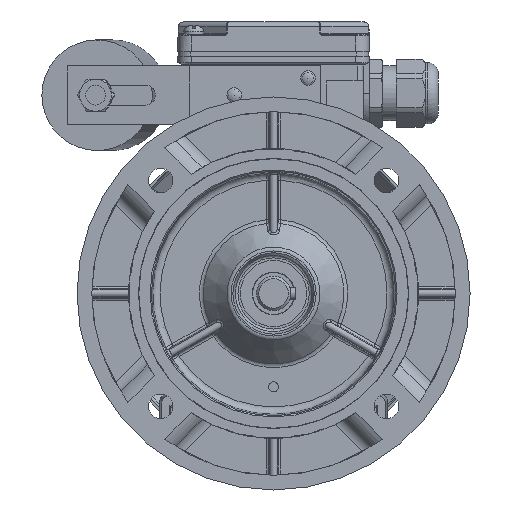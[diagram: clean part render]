
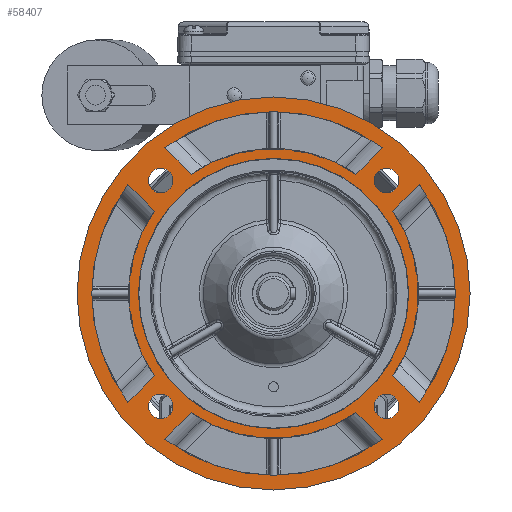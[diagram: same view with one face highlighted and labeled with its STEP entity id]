
A CAD part, front view. The second image highlights one B-rep face of the part: STEP entity #58407.
In plain terms, the highlighted planar face has unit normal (0, -1, 0).
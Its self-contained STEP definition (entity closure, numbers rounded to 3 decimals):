
#2265=CIRCLE('',#61946,59.);
#2266=CIRCLE('',#61949,74.);
#2267=CIRCLE('',#61952,59.);
#2268=CIRCLE('',#61955,74.);
#2269=CIRCLE('',#61957,55.);
#2270=CIRCLE('',#61960,59.);
#2271=CIRCLE('',#61963,74.);
#2272=CIRCLE('',#61965,59.);
#2273=CIRCLE('',#61968,74.);
#2300=CIRCLE('',#62033,80.);
#2301=CIRCLE('',#62035,5.);
#2302=CIRCLE('',#62036,5.);
#2303=CIRCLE('',#62037,5.);
#2304=CIRCLE('',#62038,5.);
#5306=LINE('',#89141,#7913);
#5307=LINE('',#89155,#7914);
#5308=LINE('',#89164,#7915);
#5309=LINE('',#89183,#7916);
#5310=LINE('',#89195,#7917);
#5311=LINE('',#89209,#7918);
#5312=LINE('',#89235,#7919);
#5313=LINE('',#89244,#7920);
#7913=VECTOR('',#70581,1000.);
#7914=VECTOR('',#70588,1000.);
#7915=VECTOR('',#70595,1000.);
#7916=VECTOR('',#70602,1000.);
#7917=VECTOR('',#70613,1000.);
#7918=VECTOR('',#70620,1000.);
#7919=VECTOR('',#70631,1000.);
#7920=VECTOR('',#70638,1000.);
#9431=PLANE('',#62034);
#17900=ORIENTED_EDGE('',*,*,#26292,.F.);
#17901=ORIENTED_EDGE('',*,*,#26293,.F.);
#17902=ORIENTED_EDGE('',*,*,#26294,.F.);
#17903=ORIENTED_EDGE('',*,*,#26295,.F.);
#17904=ORIENTED_EDGE('',*,*,#26182,.F.);
#17905=ORIENTED_EDGE('',*,*,#26180,.F.);
#17906=ORIENTED_EDGE('',*,*,#26179,.T.);
#17907=ORIENTED_EDGE('',*,*,#26176,.T.);
#17908=ORIENTED_EDGE('',*,*,#26174,.F.);
#17909=ORIENTED_EDGE('',*,*,#26172,.T.);
#17910=ORIENTED_EDGE('',*,*,#26170,.T.);
#17911=ORIENTED_EDGE('',*,*,#26168,.F.);
#17912=ORIENTED_EDGE('',*,*,#26166,.F.);
#17913=ORIENTED_EDGE('',*,*,#26165,.F.);
#17914=ORIENTED_EDGE('',*,*,#26164,.T.);
#17915=ORIENTED_EDGE('',*,*,#26161,.T.);
#17916=ORIENTED_EDGE('',*,*,#26159,.F.);
#17917=ORIENTED_EDGE('',*,*,#26157,.F.);
#17918=ORIENTED_EDGE('',*,*,#26156,.T.);
#17919=ORIENTED_EDGE('',*,*,#26153,.T.);
#17920=ORIENTED_EDGE('',*,*,#26152,.F.);
#17921=ORIENTED_EDGE('',*,*,#26291,.T.);
#26152=EDGE_CURVE('',#30995,#30994,#5306,.T.);
#26153=EDGE_CURVE('',#30996,#30994,#2265,.T.);
#26156=EDGE_CURVE('',#30997,#30996,#5307,.T.);
#26157=EDGE_CURVE('',#30997,#30995,#2266,.T.);
#26159=EDGE_CURVE('',#30998,#30999,#5308,.T.);
#26161=EDGE_CURVE('',#31000,#30999,#2267,.T.);
#26164=EDGE_CURVE('',#31001,#31000,#5309,.T.);
#26165=EDGE_CURVE('',#31001,#30998,#2268,.T.);
#26166=EDGE_CURVE('',#31002,#31002,#2269,.T.);
#26168=EDGE_CURVE('',#31003,#31004,#5310,.T.);
#26170=EDGE_CURVE('',#31005,#31004,#2270,.T.);
#26172=EDGE_CURVE('',#31006,#31005,#5311,.T.);
#26174=EDGE_CURVE('',#31006,#31003,#2271,.T.);
#26176=EDGE_CURVE('',#31008,#31007,#2272,.T.);
#26179=EDGE_CURVE('',#31009,#31008,#5312,.T.);
#26180=EDGE_CURVE('',#31009,#31010,#2273,.T.);
#26182=EDGE_CURVE('',#31010,#31007,#5313,.T.);
#26291=EDGE_CURVE('',#31091,#31091,#2300,.T.);
#26292=EDGE_CURVE('',#31092,#31092,#2301,.T.);
#26293=EDGE_CURVE('',#31093,#31093,#2302,.T.);
#26294=EDGE_CURVE('',#31094,#31094,#2303,.T.);
#26295=EDGE_CURVE('',#31095,#31095,#2304,.T.);
#30994=VERTEX_POINT('',#89135);
#30995=VERTEX_POINT('',#89140);
#30996=VERTEX_POINT('',#89144);
#30997=VERTEX_POINT('',#89154);
#30998=VERTEX_POINT('',#89163);
#30999=VERTEX_POINT('',#89165);
#31000=VERTEX_POINT('',#89172);
#31001=VERTEX_POINT('',#89182);
#31002=VERTEX_POINT('',#89188);
#31003=VERTEX_POINT('',#89194);
#31004=VERTEX_POINT('',#89196);
#31005=VERTEX_POINT('',#89203);
#31006=VERTEX_POINT('',#89210);
#31007=VERTEX_POINT('',#89222);
#31008=VERTEX_POINT('',#89224);
#31009=VERTEX_POINT('',#89234);
#31010=VERTEX_POINT('',#89238);
#31091=VERTEX_POINT('',#89961);
#31092=VERTEX_POINT('',#89964);
#31093=VERTEX_POINT('',#89966);
#31094=VERTEX_POINT('',#89968);
#31095=VERTEX_POINT('',#89970);
#35819=EDGE_LOOP('',(#17900));
#35820=EDGE_LOOP('',(#17901));
#35821=EDGE_LOOP('',(#17902));
#35822=EDGE_LOOP('',(#17903));
#35823=EDGE_LOOP('',(#17904,#17905,#17906,#17907));
#35824=EDGE_LOOP('',(#17908,#17909,#17910,#17911));
#35825=EDGE_LOOP('',(#17912));
#35826=EDGE_LOOP('',(#17913,#17914,#17915,#17916));
#35827=EDGE_LOOP('',(#17917,#17918,#17919,#17920));
#35828=EDGE_LOOP('',(#17921));
#38706=FACE_BOUND('',#35819,.T.);
#38707=FACE_BOUND('',#35820,.T.);
#38708=FACE_BOUND('',#35821,.T.);
#38709=FACE_BOUND('',#35822,.T.);
#38710=FACE_BOUND('',#35823,.T.);
#38711=FACE_BOUND('',#35824,.T.);
#38712=FACE_BOUND('',#35825,.T.);
#38713=FACE_BOUND('',#35826,.T.);
#38714=FACE_BOUND('',#35827,.T.);
#38715=FACE_BOUND('',#35828,.T.);
#58407=ADVANCED_FACE('',(#38706,#38707,#38708,#38709,#38710,#38711,#38712,
#38713,#38714,#38715),#9431,.F.);
#61946=AXIS2_PLACEMENT_3D('',#89143,#70584,#70585);
#61949=AXIS2_PLACEMENT_3D('',#89157,#70591,#70592);
#61952=AXIS2_PLACEMENT_3D('',#89171,#70598,#70599);
#61955=AXIS2_PLACEMENT_3D('',#89185,#70605,#70606);
#61957=AXIS2_PLACEMENT_3D('',#89187,#70609,#70610);
#61960=AXIS2_PLACEMENT_3D('',#89202,#70616,#70617);
#61963=AXIS2_PLACEMENT_3D('',#89216,#70623,#70624);
#61965=AXIS2_PLACEMENT_3D('',#89223,#70627,#70628);
#61968=AXIS2_PLACEMENT_3D('',#89237,#70634,#70635);
#62033=AXIS2_PLACEMENT_3D('',#89960,#70781,#70782);
#62034=AXIS2_PLACEMENT_3D('',#89962,#70783,#70784);
#62035=AXIS2_PLACEMENT_3D('',#89963,#70785,#70786);
#62036=AXIS2_PLACEMENT_3D('',#89965,#70787,#70788);
#62037=AXIS2_PLACEMENT_3D('',#89967,#70789,#70790);
#62038=AXIS2_PLACEMENT_3D('',#89969,#70791,#70792);
#70581=DIRECTION('',(-0.707,0.,-0.707));
#70584=DIRECTION('',(0.,-1.,0.));
#70585=DIRECTION('',(0.,0.,-1.));
#70588=DIRECTION('',(-0.707,0.,0.707));
#70591=DIRECTION('',(0.,-1.,0.));
#70592=DIRECTION('',(0.,0.,-1.));
#70595=DIRECTION('',(-0.707,0.,0.707));
#70598=DIRECTION('',(0.,-1.,0.));
#70599=DIRECTION('',(0.,0.,-1.));
#70602=DIRECTION('',(0.707,0.,0.707));
#70605=DIRECTION('',(0.,-1.,0.));
#70606=DIRECTION('',(0.,0.,-1.));
#70609=DIRECTION('',(0.,-1.,0.));
#70610=DIRECTION('',(0.,0.,-1.));
#70613=DIRECTION('',(0.707,0.,0.707));
#70616=DIRECTION('',(0.,-1.,0.));
#70617=DIRECTION('',(0.,0.,-1.));
#70620=DIRECTION('',(0.707,0.,-0.707));
#70623=DIRECTION('',(0.,-1.,0.));
#70624=DIRECTION('',(0.,0.,-1.));
#70627=DIRECTION('',(0.,-1.,0.));
#70628=DIRECTION('',(0.,0.,-1.));
#70631=DIRECTION('',(-0.707,0.,-0.707));
#70634=DIRECTION('',(0.,-1.,0.));
#70635=DIRECTION('',(0.,0.,-1.));
#70638=DIRECTION('',(0.707,0.,-0.707));
#70781=DIRECTION('',(0.,-1.,0.));
#70782=DIRECTION('',(0.,0.,-1.));
#70783=DIRECTION('',(0.,1.,0.));
#70784=DIRECTION('',(0.,0.,1.));
#70785=DIRECTION('',(0.,-1.,0.));
#70786=DIRECTION('',(1.,0.,0.));
#70787=DIRECTION('',(0.,-1.,0.));
#70788=DIRECTION('',(1.,0.,0.));
#70789=DIRECTION('',(0.,-1.,0.));
#70790=DIRECTION('',(1.,0.,0.));
#70791=DIRECTION('',(0.,-1.,0.));
#70792=DIRECTION('',(1.,0.,0.));
#89135=CARTESIAN_POINT('',(48.549,-90.,33.526));
#89140=CARTESIAN_POINT('',(59.295,-90.,44.273));
#89141=CARTESIAN_POINT('',(59.837,-90.,44.815));
#89143=CARTESIAN_POINT('',(0.,-90.,0.));
#89144=CARTESIAN_POINT('',(48.549,-90.,-33.526));
#89154=CARTESIAN_POINT('',(59.295,-90.,-44.273));
#89155=CARTESIAN_POINT('',(59.837,-90.,-44.815));
#89157=CARTESIAN_POINT('',(0.,-90.,0.));
#89163=CARTESIAN_POINT('',(44.273,-90.,-59.295));
#89164=CARTESIAN_POINT('',(44.815,-90.,-59.837));
#89165=CARTESIAN_POINT('',(33.526,-90.,-48.549));
#89171=CARTESIAN_POINT('',(0.,-90.,0.));
#89172=CARTESIAN_POINT('',(-33.526,-90.,-48.549));
#89182=CARTESIAN_POINT('',(-44.273,-90.,-59.295));
#89183=CARTESIAN_POINT('',(-44.815,-90.,-59.837));
#89185=CARTESIAN_POINT('',(0.,-90.,0.));
#89187=CARTESIAN_POINT('',(0.,-90.,0.));
#89188=CARTESIAN_POINT('',(0.,-90.,-55.));
#89194=CARTESIAN_POINT('',(-59.295,-90.,-44.273));
#89195=CARTESIAN_POINT('',(-59.837,-90.,-44.815));
#89196=CARTESIAN_POINT('',(-48.549,-90.,-33.526));
#89202=CARTESIAN_POINT('',(0.,-90.,0.));
#89203=CARTESIAN_POINT('',(-48.549,-90.,33.526));
#89209=CARTESIAN_POINT('',(-59.837,-90.,44.815));
#89210=CARTESIAN_POINT('',(-59.295,-90.,44.273));
#89216=CARTESIAN_POINT('',(0.,-90.,0.));
#89222=CARTESIAN_POINT('',(-33.526,-90.,48.549));
#89223=CARTESIAN_POINT('',(0.,-90.,0.));
#89224=CARTESIAN_POINT('',(33.526,-90.,48.549));
#89234=CARTESIAN_POINT('',(44.273,-90.,59.295));
#89235=CARTESIAN_POINT('',(44.815,-90.,59.837));
#89237=CARTESIAN_POINT('',(0.,-90.,0.));
#89238=CARTESIAN_POINT('',(-44.273,-90.,59.295));
#89244=CARTESIAN_POINT('',(-44.815,-90.,59.837));
#89960=CARTESIAN_POINT('',(0.,-90.,0.));
#89961=CARTESIAN_POINT('',(0.,-90.,-80.));
#89962=CARTESIAN_POINT('',(0.,-90.,55.));
#89963=CARTESIAN_POINT('',(45.962,-90.,45.962));
#89964=CARTESIAN_POINT('',(50.962,-90.,45.962));
#89965=CARTESIAN_POINT('',(45.962,-90.,-45.962));
#89966=CARTESIAN_POINT('',(50.962,-90.,-45.962));
#89967=CARTESIAN_POINT('',(-45.962,-90.,-45.962));
#89968=CARTESIAN_POINT('',(-40.962,-90.,-45.962));
#89969=CARTESIAN_POINT('',(-45.962,-90.,45.962));
#89970=CARTESIAN_POINT('',(-40.962,-90.,45.962));
